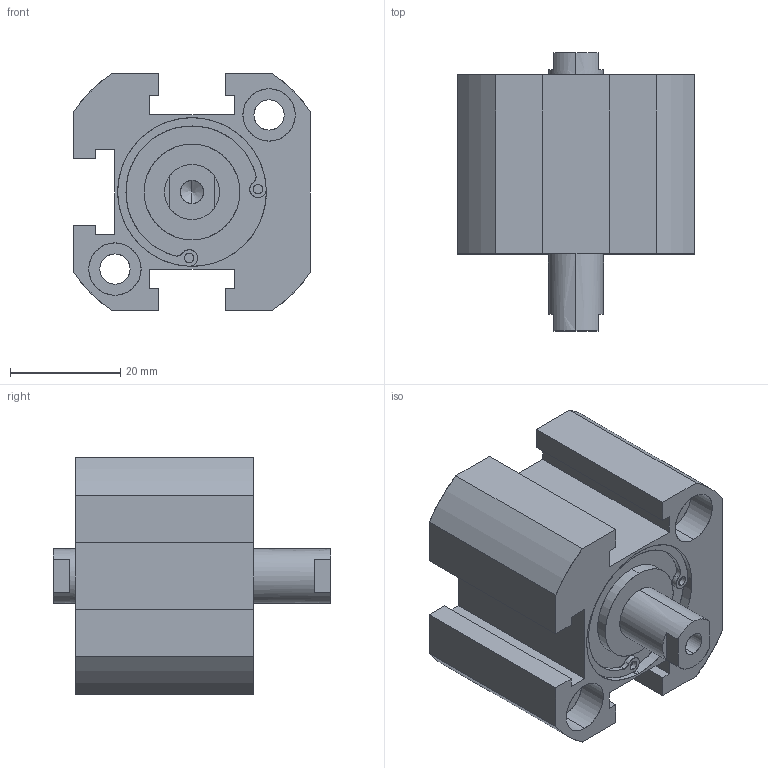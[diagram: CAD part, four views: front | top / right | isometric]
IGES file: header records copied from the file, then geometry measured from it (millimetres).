
Start section: SolidWorks IGES file using analytic representation for surfaces
Global section: file name: C:\Users\Toshiba\Desktop\XC#7-25-10.IGS; native system: SolidWorks 2014; preprocessor: SolidWorks 2014; author: Toshiba; date: 160523.162306; units: millimetre
Bounding box: 43 x 50.5 x 43 mm (x, y, z)
Surface area: 13318.1 mm2 (no closed solid volume)
Topology: 0 solids, 0 shells, 127 faces, 1902 edges, 1894 vertices
Faces by surface type: revolution 73, bspline 54
